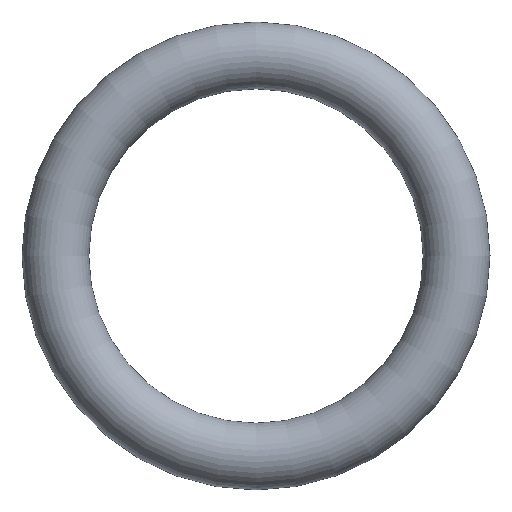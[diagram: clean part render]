
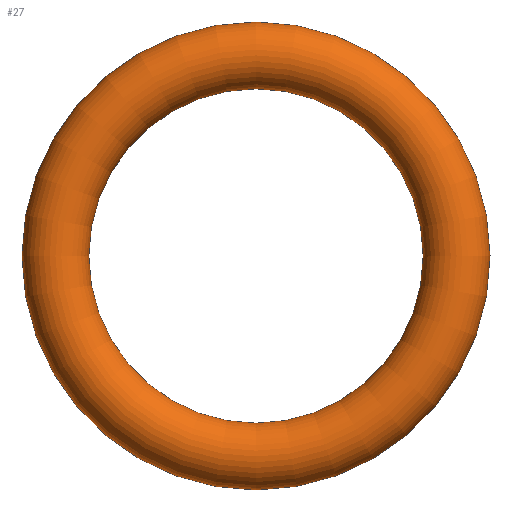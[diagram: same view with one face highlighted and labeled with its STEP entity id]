
A CAD part, top view. The second image highlights one B-rep face of the part: STEP entity #27.
In plain terms, the highlighted toroidal (fillet/blend) face has major radius 152.4 mm and minor radius 25.4 mm.
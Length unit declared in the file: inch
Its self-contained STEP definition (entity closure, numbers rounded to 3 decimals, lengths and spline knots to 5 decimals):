
#15=FACE_OUTER_BOUND('',#16,.T.);
#16=EDGE_LOOP('',(#22,#23,#24,#25));
#17=CIRCLE('',#43,1.);
#18=CIRCLE('',#44,5.);
#19=VERTEX_POINT('',#55);
#20=EDGE_CURVE('',#19,#19,#17,.T.);
#21=EDGE_CURVE('',#19,#19,#18,.T.);
#22=ORIENTED_EDGE('',*,*,#20,.F.);
#23=ORIENTED_EDGE('',*,*,#21,.T.);
#24=ORIENTED_EDGE('',*,*,#20,.T.);
#25=ORIENTED_EDGE('',*,*,#21,.F.);
#26=TOROIDAL_SURFACE('',#42,6.,1.);
#27=ADVANCED_FACE('',(#15),#26,.T.);
#42=AXIS2_PLACEMENT_3D('',#54,#47,#48);
#43=AXIS2_PLACEMENT_3D('',#56,#49,#50);
#44=AXIS2_PLACEMENT_3D('',#57,#51,#52);
#47=DIRECTION('center_axis',(0.,0.,1.));
#48=DIRECTION('ref_axis',(1.,0.,0.));
#49=DIRECTION('center_axis',(0.,-1.,0.));
#50=DIRECTION('ref_axis',(-1.,0.,0.));
#51=DIRECTION('center_axis',(0.,0.,-1.));
#52=DIRECTION('ref_axis',(1.,0.,0.));
#54=CARTESIAN_POINT('Origin',(0.,0.,0.));
#55=CARTESIAN_POINT('',(-5.,0.,0.));
#56=CARTESIAN_POINT('Origin',(-6.,0.,0.));
#57=CARTESIAN_POINT('Origin',(0.,0.,0.));
